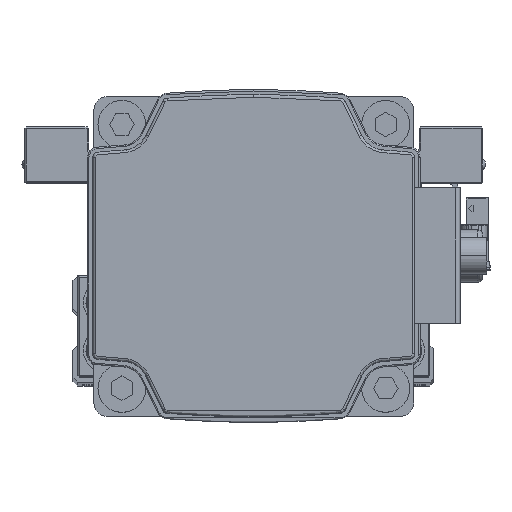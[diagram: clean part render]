
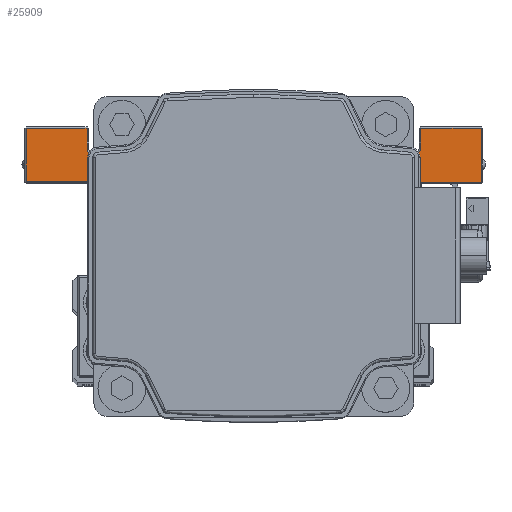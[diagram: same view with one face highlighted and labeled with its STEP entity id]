
A CAD part, top view. The second image highlights one B-rep face of the part: STEP entity #25909.
In plain terms, the highlighted planar face has unit normal (0, 0, 1) as drawn and (1, 0, 0) by its records, which use the part's own axes.
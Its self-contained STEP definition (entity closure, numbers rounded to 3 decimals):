
#801 = DIRECTION ( 'NONE',  ( -1., 0., 0. ) ) ;
#880 = CARTESIAN_POINT ( 'NONE',  ( 45., -8.2, 19.7 ) ) ;
#1212 = LINE ( 'NONE', #13730, #6622 ) ;
#1306 = CARTESIAN_POINT ( 'NONE',  ( 45., 17.7, -42.7 ) ) ;
#1370 = CARTESIAN_POINT ( 'NONE',  ( 45., 7.5, -20. ) ) ;
#1472 = LINE ( 'NONE', #13994, #4626 ) ;
#1728 = VECTOR ( 'NONE', #37553, 1000. ) ;
#2020 = CARTESIAN_POINT ( 'NONE',  ( 45., 17.7, -20. ) ) ;
#2157 = DIRECTION ( 'NONE',  ( 0., 0., 1. ) ) ;
#2289 = CARTESIAN_POINT ( 'NONE',  ( 45., 17.7, 31.3 ) ) ;
#2785 = CARTESIAN_POINT ( 'NONE',  ( 45., 7.5, -19.7 ) ) ;
#3209 = DIRECTION ( 'NONE',  ( -1., 0., 0. ) ) ;
#3828 = CARTESIAN_POINT ( 'NONE',  ( 45., 7.5, -42.7 ) ) ;
#4080 = DIRECTION ( 'NONE',  ( 0., -1., 0. ) ) ;
#4083 = AXIS2_PLACEMENT_3D ( 'NONE', #28963, #801, #13323 ) ;
#4626 = VECTOR ( 'NONE', #26544, 1000. ) ;
#4849 = EDGE_CURVE ( 'NONE', #6412, #16917, #6420, .T. ) ;
#5387 = VERTEX_POINT ( 'NONE', #880 ) ;
#5562 = EDGE_CURVE ( 'NONE', #11335, #19422, #8464, .T. ) ;
#5976 = LINE ( 'NONE', #18514, #28201 ) ;
#6412 = VERTEX_POINT ( 'NONE', #30921 ) ;
#6420 = CIRCLE ( 'NONE', #29400, 1.3 ) ;
#6622 = VECTOR ( 'NONE', #26278, 1000. ) ;
#7011 = DIRECTION ( 'NONE',  ( 0., 0., -1. ) ) ;
#7224 = VECTOR ( 'NONE', #14532, 1000. ) ;
#7431 = DIRECTION ( 'NONE',  ( 0., 0., -1. ) ) ;
#7765 = VERTEX_POINT ( 'NONE', #18754 ) ;
#8464 = LINE ( 'NONE', #21004, #30341 ) ;
#8634 = LINE ( 'NONE', #21177, #34829 ) ;
#9227 = ORIENTED_EDGE ( 'NONE', *, *, #4849, .T. ) ;
#10415 = ORIENTED_EDGE ( 'NONE', *, *, #18082, .T. ) ;
#10903 = CARTESIAN_POINT ( 'NONE',  ( 45., -8.2, -19.7 ) ) ;
#10924 = VECTOR ( 'NONE', #2157, 1000. ) ;
#11210 = LINE ( 'NONE', #23758, #36846 ) ;
#11310 = VERTEX_POINT ( 'NONE', #28709 ) ;
#11335 = VERTEX_POINT ( 'NONE', #3828 ) ;
#12263 = VERTEX_POINT ( 'NONE', #10903 ) ;
#12446 = LINE ( 'NONE', #24989, #1728 ) ;
#12625 = EDGE_CURVE ( 'NONE', #40259, #11310, #21814, .T. ) ;
#12668 = VERTEX_POINT ( 'NONE', #32458 ) ;
#13323 = DIRECTION ( 'NONE',  ( 0., 0., 1. ) ) ;
#13503 = EDGE_CURVE ( 'NONE', #16917, #40259, #1472, .T. ) ;
#13730 = CARTESIAN_POINT ( 'NONE',  ( 45., 7.5, 42.7 ) ) ;
#13885 = EDGE_CURVE ( 'NONE', #7765, #12668, #1212, .T. ) ;
#13896 = DIRECTION ( 'NONE',  ( -1., 0., 0. ) ) ;
#13994 = CARTESIAN_POINT ( 'NONE',  ( 45., 12.7, 30. ) ) ;
#14532 = DIRECTION ( 'NONE',  ( 0., 0., 1. ) ) ;
#14541 = EDGE_CURVE ( 'NONE', #12263, #19211, #5976, .T. ) ;
#15126 = VECTOR ( 'NONE', #7011, 1000. ) ;
#15728 = DIRECTION ( 'NONE',  ( 0., 0., 1. ) ) ;
#16084 = ORIENTED_EDGE ( 'NONE', *, *, #13503, .T. ) ;
#16917 = VERTEX_POINT ( 'NONE', #24142 ) ;
#16973 = ORIENTED_EDGE ( 'NONE', *, *, #39873, .T. ) ;
#16974 = FACE_OUTER_BOUND ( 'NONE', #33164, .T. ) ;
#16977 = VERTEX_POINT ( 'NONE', #34026 ) ;
#16985 = ORIENTED_EDGE ( 'NONE', *, *, #39523, .T. ) ;
#17201 = ORIENTED_EDGE ( 'NONE', *, *, #12625, .T. ) ;
#17754 = LINE ( 'NONE', #30314, #10924 ) ;
#18082 = EDGE_CURVE ( 'NONE', #19422, #22979, #30177, .T. ) ;
#18264 = EDGE_CURVE ( 'NONE', #22979, #6412, #8634, .T. ) ;
#18514 = CARTESIAN_POINT ( 'NONE',  ( 45., 7.5, -19.7 ) ) ;
#18754 = CARTESIAN_POINT ( 'NONE',  ( 45., 17.7, 42.7 ) ) ;
#19070 = EDGE_CURVE ( 'NONE', #5387, #12263, #11210, .T. ) ;
#19211 = VERTEX_POINT ( 'NONE', #2785 ) ;
#19224 = ORIENTED_EDGE ( 'NONE', *, *, #19070, .T. ) ;
#19422 = VERTEX_POINT ( 'NONE', #1306 ) ;
#19688 = LINE ( 'NONE', #32246, #23199 ) ;
#21004 = CARTESIAN_POINT ( 'NONE',  ( 45., 7.5, -42.7 ) ) ;
#21177 = CARTESIAN_POINT ( 'NONE',  ( 45., 7.5, -31.3 ) ) ;
#21814 = CIRCLE ( 'NONE', #4083, 1.3 ) ;
#22492 = EDGE_CURVE ( 'NONE', #12668, #16977, #22627, .T. ) ;
#22627 = LINE ( 'NONE', #35187, #15126 ) ;
#22720 = ORIENTED_EDGE ( 'NONE', *, *, #18264, .T. ) ;
#22979 = VERTEX_POINT ( 'NONE', #39192 ) ;
#23052 = LINE ( 'NONE', #35613, #35738 ) ;
#23199 = VECTOR ( 'NONE', #4080, 1000. ) ;
#23758 = CARTESIAN_POINT ( 'NONE',  ( 45., -8.2, -20. ) ) ;
#23894 = VERTEX_POINT ( 'NONE', #2289 ) ;
#24142 = CARTESIAN_POINT ( 'NONE',  ( 45., 12.7, -30. ) ) ;
#24989 = CARTESIAN_POINT ( 'NONE',  ( 45., 7.5, 31.3 ) ) ;
#25029 = EDGE_CURVE ( 'NONE', #19211, #11335, #23052, .T. ) ;
#25909 = ADVANCED_FACE ( 'NONE', ( #16974 ), #29533, .F. ) ;
#26278 = DIRECTION ( 'NONE',  ( 0., -1., 0. ) ) ;
#26450 = DIRECTION ( 'NONE',  ( 0., 0., 1. ) ) ;
#26544 = DIRECTION ( 'NONE',  ( 0., 0., 1. ) ) ;
#27551 = ORIENTED_EDGE ( 'NONE', *, *, #5562, .T. ) ;
#27851 = ORIENTED_EDGE ( 'NONE', *, *, #13885, .T. ) ;
#27895 = ORIENTED_EDGE ( 'NONE', *, *, #14541, .T. ) ;
#28201 = VECTOR ( 'NONE', #31064, 1000. ) ;
#28709 = CARTESIAN_POINT ( 'NONE',  ( 45., 14., 31.3 ) ) ;
#28963 = CARTESIAN_POINT ( 'NONE',  ( 45., 14., 30. ) ) ;
#29400 = AXIS2_PLACEMENT_3D ( 'NONE', #31370, #3209, #15728 ) ;
#29533 = PLANE ( 'NONE',  #33839 ) ;
#30177 = LINE ( 'NONE', #2020, #7224 ) ;
#30314 = CARTESIAN_POINT ( 'NONE',  ( 45., 17.7, -20. ) ) ;
#30341 = VECTOR ( 'NONE', #33566, 1000. ) ;
#30921 = CARTESIAN_POINT ( 'NONE',  ( 45., 14., -31.3 ) ) ;
#31064 = DIRECTION ( 'NONE',  ( 0., 1., 0. ) ) ;
#31370 = CARTESIAN_POINT ( 'NONE',  ( 45., 14., -30. ) ) ;
#32246 = CARTESIAN_POINT ( 'NONE',  ( 45., 7.5, 19.7 ) ) ;
#32458 = CARTESIAN_POINT ( 'NONE',  ( 45., 7.8, 42.7 ) ) ;
#33164 = EDGE_LOOP ( 'NONE', ( #27895, #40616, #27551, #10415, #22720, #9227, #16084, #17201, #16985, #16973, #27851, #39878, #36214, #19224 ) ) ;
#33566 = DIRECTION ( 'NONE',  ( 0., 1., 0. ) ) ;
#33717 = CARTESIAN_POINT ( 'NONE',  ( 45., 12.7, 30. ) ) ;
#33736 = DIRECTION ( 'NONE',  ( 0., -1., 0. ) ) ;
#33839 = AXIS2_PLACEMENT_3D ( 'NONE', #1370, #13896, #26450 ) ;
#34026 = CARTESIAN_POINT ( 'NONE',  ( 45., 7.8, 19.7 ) ) ;
#34751 = EDGE_CURVE ( 'NONE', #16977, #5387, #19688, .T. ) ;
#34829 = VECTOR ( 'NONE', #33736, 1000. ) ;
#35187 = CARTESIAN_POINT ( 'NONE',  ( 45., 7.8, 20. ) ) ;
#35613 = CARTESIAN_POINT ( 'NONE',  ( 45., 7.5, 43. ) ) ;
#35738 = VECTOR ( 'NONE', #7431, 1000. ) ;
#36214 = ORIENTED_EDGE ( 'NONE', *, *, #34751, .T. ) ;
#36319 = DIRECTION ( 'NONE',  ( 0., 0., -1. ) ) ;
#36846 = VECTOR ( 'NONE', #36319, 1000. ) ;
#37553 = DIRECTION ( 'NONE',  ( 0., 1., 0. ) ) ;
#39192 = CARTESIAN_POINT ( 'NONE',  ( 45., 17.7, -31.3 ) ) ;
#39523 = EDGE_CURVE ( 'NONE', #11310, #23894, #12446, .T. ) ;
#39873 = EDGE_CURVE ( 'NONE', #23894, #7765, #17754, .T. ) ;
#39878 = ORIENTED_EDGE ( 'NONE', *, *, #22492, .T. ) ;
#40259 = VERTEX_POINT ( 'NONE', #33717 ) ;
#40616 = ORIENTED_EDGE ( 'NONE', *, *, #25029, .T. ) ;
